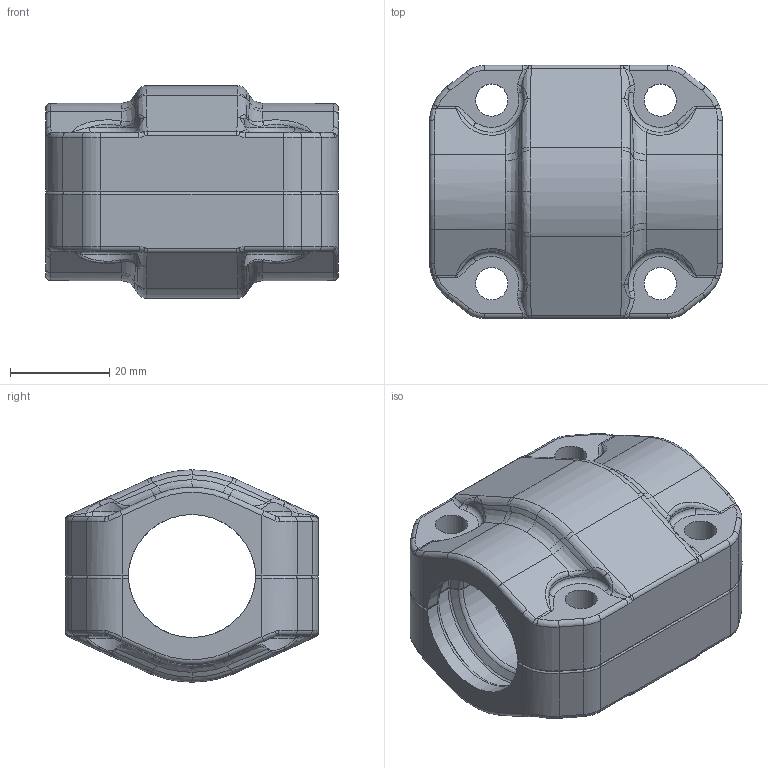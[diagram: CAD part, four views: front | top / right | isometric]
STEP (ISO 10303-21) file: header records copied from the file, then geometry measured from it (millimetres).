
FILE_DESCRIPTION(/* description */ (''),/* implementation_level */ '2;1');
FILE_NAME(/* name */ '2002_stp.stp',/* time_stamp */ '2025-06-20T11:18:31+08:00',/* author */ (''),/* organization */ (''),/* preprocessor_version */ 'ST-DEVELOPER v14',/* originating_system */ 'SIEMENS PLM Software NX 8.0',/* authorisation */ '');
FILE_SCHEMA (('AP203_CONFIGURATION_CONTROLLED_3D_DESIGN_OF_MECHANICAL_PARTS_AND_ASSEMBLIES_MIM_LF { 1 0 10303 403 2 1 2}'));
Length unit declared in the file: millimetre
Products named in the file (1): Admi144825784x6h
Bounding box: 59 x 51 x 42.8 mm (x, y, z)
Volume: 43246.5 mm3; surface area: 21098 mm2
Topology: 2 solids, 2 shells, 612 faces, 1467 edges, 863 vertices
Faces by surface type: bspline 244, cylinder 152, plane 90, torus 68, cone 28, extrusion 28, sphere 2
Entity records: 30329 total; most frequent: CARTESIAN_POINT 17714, ORIENTED_EDGE 2934, DIRECTION 2196, EDGE_CURVE 1467, AXIS2_PLACEMENT_3D 871, VERTEX_POINT 863, EDGE_LOOP 632, ADVANCED_FACE 612
